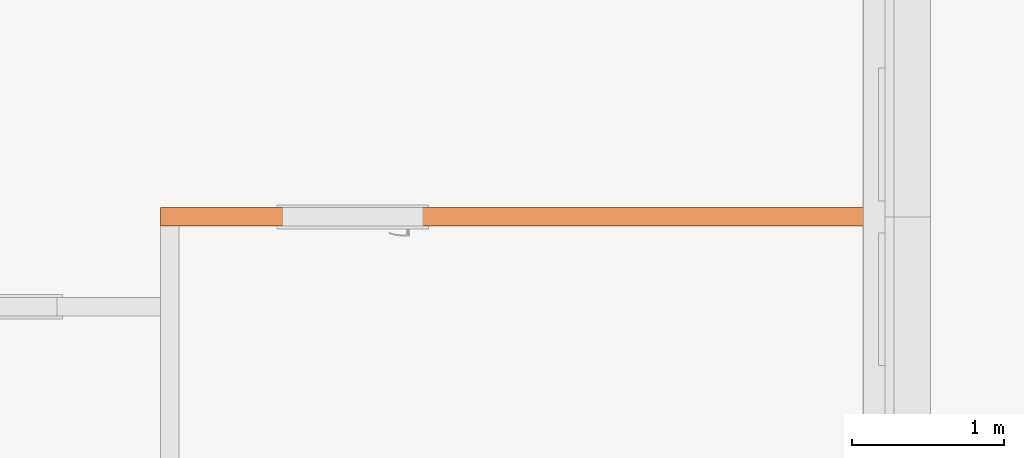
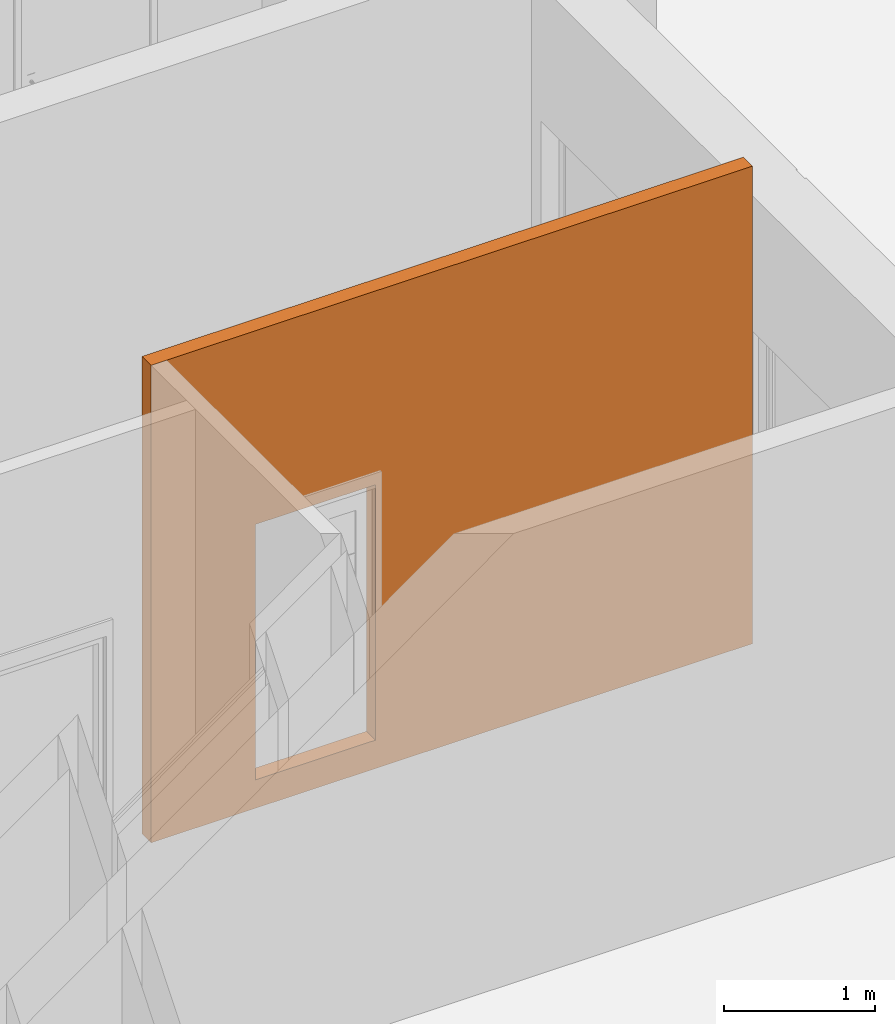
# One storey, part 19 of 46: 1 proxy, 1 opening.
"""IFC2X3 building model written with IfcOpenShell, lengths in millimetres."""

from ifc_helpers import new_model, entity, si_unit, converted_unit, derived_unit, money_unit, direction, frame, origin_with_axes, origin_2d_with_axis, place, context, subcontext, project, spatial, rectangle, extrude, faceted_brep, material, type_object, element, save


model = new_model("IFC2X3")

# Units and contexts
model_context = context("Model", 3, precision=0.01, world=origin_with_axes(), true_north=direction((0.34421633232, 0.938890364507)))
body_context = subcontext(model_context, "Body", "Model", "MODEL_VIEW")
ifc_project = project(units=[si_unit("LENGTHUNIT", "METRE", prefix="MILLI"), si_unit("AREAUNIT", "SQUARE_METRE"), si_unit("VOLUMEUNIT", "CUBIC_METRE"), converted_unit("PLANEANGLEUNIT", "DEGREE", entity("IfcPlaneAngleMeasure", 0.0174532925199), si_unit("PLANEANGLEUNIT", "RADIAN"), dimensions=[0, 0, 0, 0, 0, 0, 0]), si_unit("SOLIDANGLEUNIT", "STERADIAN"), money_unit("USD"), converted_unit("TIMEUNIT", "Year", entity("IfcTimeMeasure", 31556926.0), si_unit("TIMEUNIT", "SECOND"), dimensions=[0, 0, 1, 0, 0, 0, 0]), si_unit("MASSUNIT", "GRAM", prefix="KILO"), si_unit("THERMODYNAMICTEMPERATUREUNIT", "DEGREE_CELSIUS"), si_unit("LUMINOUSINTENSITYUNIT", "LUMEN"), si_unit("ENERGYUNIT", "JOULE", prefix="MEGA"), derived_unit("THERMALCONDUCTANCEUNIT", [(si_unit("POWERUNIT", "WATT"), 1), (si_unit("LENGTHUNIT", "METRE"), -1), (si_unit("THERMODYNAMICTEMPERATUREUNIT", "KELVIN"), -1)]), derived_unit("SPECIFICHEATCAPACITYUNIT", [(si_unit("ENERGYUNIT", "JOULE"), 1), (si_unit("MASSUNIT", "GRAM", prefix="KILO"), -1), (si_unit("THERMODYNAMICTEMPERATUREUNIT", "KELVIN"), -1)]), derived_unit("MASSDENSITYUNIT", [(si_unit("MASSUNIT", "GRAM", prefix="KILO"), 1), (si_unit("VOLUMEUNIT", "CUBIC_METRE"), -1)])], contexts=[model_context])

# Site, building, storey
site_placement = place(None, origin_with_axes())
site = spatial("IfcSite", under=ifc_project, at=site_placement, Name="USTRONIE MORSKIE", CompositionType="ELEMENT")
building_placement = place(site_placement, origin_with_axes())
building = spatial("IfcBuilding", under=site, at=building_placement, Name="Budynek", CompositionType="ELEMENT")
storey_placement = place(building_placement, origin_with_axes())
storey = spatial("IfcBuildingStorey", under=building, at=storey_placement, Name="PARTER", CompositionType="ELEMENT", Elevation=0.0)

# Proxy, opening
ifc_material = material(Name="Bloczki silikatowe")
building_element_proxy_type = type_object("IfcBuildingElementProxyType", Name="Bloczki silikatowe 120", PredefinedType="NOTDEFINED")
proxy_placement = place(storey_placement, frame((362417.920919, 717951.218387, -230.0), z_axis=(0.0, 0.0, 1.0), x_axis=(1.0, 0.0, 0.0)))
proxy = element("IfcBuildingElementProxy", 1, at=proxy_placement, inside=storey, type_object=building_element_proxy_type, material=ifc_material, Name="SW-04", context=body_context, shape_type="Brep", body=[
    faceted_brep([(4550.0181358, -59.9999999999, 3870.0), (4550.0181358, -59.9999999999, 3630.0), (4550.01788371, 59.9999999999, 3630.0), (4550.01788371, 59.9999999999, 3870.0), (4550.0, -59.9999999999, 0.0), (4550.0, -59.9999999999, 3630.0), (-60.0, -59.9999999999, 3870.0), (-60.0, -59.9999999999, 0.0), (4550.0, 59.9999999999, 3630.0), (4550.0, 59.9999999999, 0.0), (-60.0, 59.9999999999, 0.0), (-60.0, 59.9999999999, 3870.0)], [[[0, 1, 2, 3]], [[4, 5, 1, 0, 6, 7]], [[5, 8, 2, 1]], [[2, 8, 9, 10, 11, 3]], [[6, 0, 3, 11]], [[4, 9, 8, 5]], [[6, 11, 10, 7]], [[10, 9, 4, 7]]]),
])
opening_placement = place(proxy_placement, frame((1200.0, 0.0, 230.0), z_axis=(0.0, 0.0, 1.0), x_axis=(1.0, 0.0, 0.0)))
element("IfcOpeningElement", 2, at=opening_placement, cuts=proxy, Name="Dw.3", context=body_context, shape_type="SweptSolid", body=[
    extrude(rectangle(XDim=920.0, YDim=2070.0, at=origin_2d_with_axis()), frame((0.0, -120.0, 1035.0), z_axis=(0.0, 1.0, 0.0), x_axis=(-1.0, 0.0, 0.0)), (0.0, 0.0, 1.0), 360.0),
    extrude(rectangle(XDim=994.0, YDim=2177.0, at=origin_2d_with_axis()), frame((0.0, -59.9999999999, 1088.5), z_axis=(0.0, 1.0, 0.0), x_axis=(-1.0, 0.0, 0.0)), (0.0, 0.0, -1.0), 120.0),
    extrude(rectangle(XDim=994.0, YDim=2177.0, at=origin_2d_with_axis()), frame((0.0, 60.0000000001, 1088.5), z_axis=(0.0, -1.0, 0.0), x_axis=(-1.0, 0.0, 0.0)), (0.0, 0.0, -1.0), 120.0),
])

save(model, "model.ifc")
